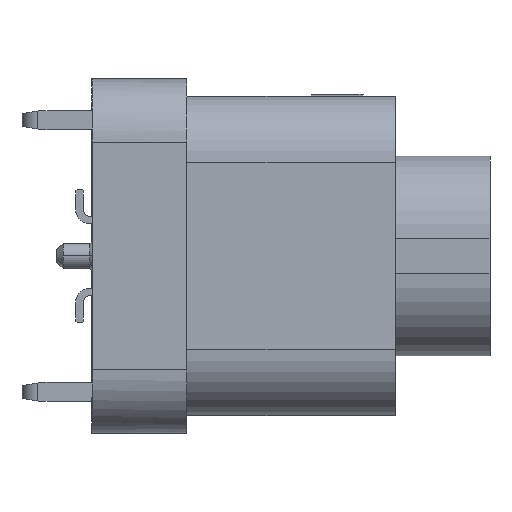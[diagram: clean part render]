
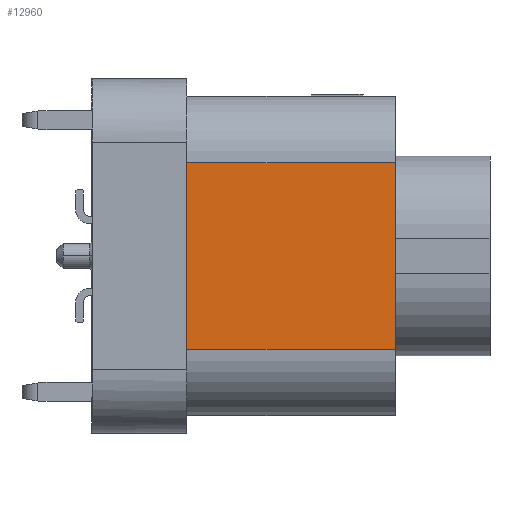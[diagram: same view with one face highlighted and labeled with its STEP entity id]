
A CAD part, left-side view. The second image highlights one B-rep face of the part: STEP entity #12960.
In plain terms, the highlighted planar face has unit normal (-1, 0, 0).
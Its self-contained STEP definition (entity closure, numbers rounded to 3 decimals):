
#275 = ORIENTED_EDGE ( 'NONE', *, *, #36388, .T. ) ;
#2857 = DIRECTION ( 'NONE',  ( -1., 0., 0. ) ) ;
#3399 = AXIS2_PLACEMENT_3D ( 'NONE', #52678, #2857, #51417 ) ;
#4124 = DIRECTION ( 'NONE',  ( 0., 0., 1. ) ) ;
#5406 = CARTESIAN_POINT ( 'NONE',  ( 11.225, -0.055, -4. ) ) ;
#8021 = CARTESIAN_POINT ( 'NONE',  ( 11.225, -3.355, -1.05 ) ) ;
#11092 = ORIENTED_EDGE ( 'NONE', *, *, #29963, .T. ) ;
#12798 = VECTOR ( 'NONE', #45968, 1000. ) ;
#12960 = ADVANCED_FACE ( 'NONE', ( #23095 ), #31784, .T. ) ;
#20405 = ORIENTED_EDGE ( 'NONE', *, *, #41320, .T. ) ;
#22678 = VERTEX_POINT ( 'NONE', #36579 ) ;
#23095 = FACE_OUTER_BOUND ( 'NONE', #51712, .T. ) ;
#24104 = CARTESIAN_POINT ( 'NONE',  ( 11.225, -3.355, -1.05 ) ) ;
#27077 = VECTOR ( 'NONE', #63621, 1000. ) ;
#29963 = EDGE_CURVE ( 'NONE', #37453, #22678, #54587, .T. ) ;
#31031 = CARTESIAN_POINT ( 'NONE',  ( 11.225, -0.055, -1.05 ) ) ;
#31784 = PLANE ( 'NONE',  #3399 ) ;
#32081 = ORIENTED_EDGE ( 'NONE', *, *, #44020, .T. ) ;
#36388 = EDGE_CURVE ( 'NONE', #22678, #43351, #63255, .T. ) ;
#36579 = CARTESIAN_POINT ( 'NONE',  ( 11.225, -3.355, -4. ) ) ;
#36934 = CARTESIAN_POINT ( 'NONE',  ( 11.225, -0.055, -4. ) ) ;
#37453 = VERTEX_POINT ( 'NONE', #36934 ) ;
#41320 = EDGE_CURVE ( 'NONE', #60178, #37453, #59108, .T. ) ;
#43335 = CARTESIAN_POINT ( 'NONE',  ( 11.225, -3.355, -4. ) ) ;
#43351 = VERTEX_POINT ( 'NONE', #24104 ) ;
#44020 = EDGE_CURVE ( 'NONE', #43351, #60178, #46612, .T. ) ;
#44924 = DIRECTION ( 'NONE',  ( 0., -1., 0. ) ) ;
#45968 = DIRECTION ( 'NONE',  ( 0., 1., 0. ) ) ;
#46612 = LINE ( 'NONE', #8021, #12798 ) ;
#48836 = CARTESIAN_POINT ( 'NONE',  ( 11.225, -0.055, -1.05 ) ) ;
#51417 = DIRECTION ( 'NONE',  ( 0., 1., 0. ) ) ;
#51712 = EDGE_LOOP ( 'NONE', ( #32081, #20405, #11092, #275 ) ) ;
#52678 = CARTESIAN_POINT ( 'NONE',  ( 11.225, -0.055, 0. ) ) ;
#54587 = LINE ( 'NONE', #5406, #61421 ) ;
#59108 = LINE ( 'NONE', #48836, #27077 ) ;
#60178 = VERTEX_POINT ( 'NONE', #31031 ) ;
#61421 = VECTOR ( 'NONE', #44924, 1000. ) ;
#61657 = VECTOR ( 'NONE', #4124, 1000. ) ;
#63255 = LINE ( 'NONE', #43335, #61657 ) ;
#63621 = DIRECTION ( 'NONE',  ( 0., 0., -1. ) ) ;
